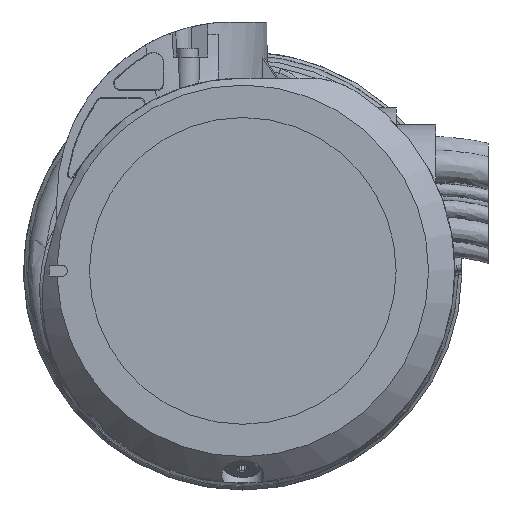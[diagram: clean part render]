
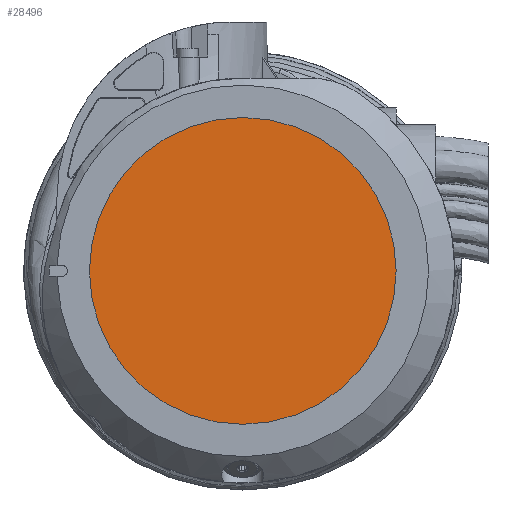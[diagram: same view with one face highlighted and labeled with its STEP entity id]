
A CAD part, left-side view. The second image highlights one B-rep face of the part: STEP entity #28496.
In plain terms, the highlighted planar face has unit normal (-1, 0, 0).
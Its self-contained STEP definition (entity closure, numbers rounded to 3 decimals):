
#5338 = AXIS2_PLACEMENT_3D ( 'NONE', #25830, #21275, #35167 ) ;
#6187 = DIRECTION ( 'NONE',  ( -1., 0., 0. ) ) ;
#11548 = AXIS2_PLACEMENT_3D ( 'NONE', #22705, #6187, #44485 ) ;
#18154 = FACE_OUTER_BOUND ( 'NONE', #42538, .T. ) ;
#21275 = DIRECTION ( 'NONE',  ( -1., 0., 0. ) ) ;
#22705 = CARTESIAN_POINT ( 'NONE',  ( 1977.2, 0., 2525. ) ) ;
#23426 = VERTEX_POINT ( 'NONE', #23894 ) ;
#23894 = CARTESIAN_POINT ( 'NONE',  ( 1977.2, -87.5, 2525. ) ) ;
#25830 = CARTESIAN_POINT ( 'NONE',  ( 1977.2, 0., 2525. ) ) ;
#28496 = ADVANCED_FACE ( 'NONE', ( #18154 ), #32635, .T. ) ;
#32392 = EDGE_CURVE ( 'NONE', #23426, #23426, #43402, .T. ) ;
#32635 = PLANE ( 'NONE',  #5338 ) ;
#35167 = DIRECTION ( 'NONE',  ( 0., -1., 0. ) ) ;
#38415 = ORIENTED_EDGE ( 'NONE', *, *, #32392, .T. ) ;
#42538 = EDGE_LOOP ( 'NONE', ( #38415 ) ) ;
#43402 = CIRCLE ( 'NONE', #11548, 87.5 ) ;
#44485 = DIRECTION ( 'NONE',  ( 0., -1., 0. ) ) ;
